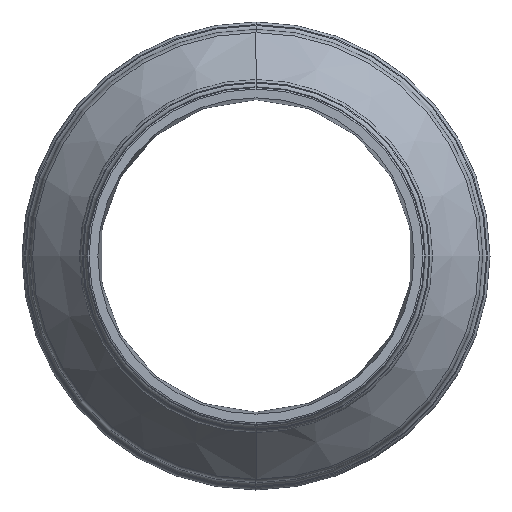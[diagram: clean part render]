
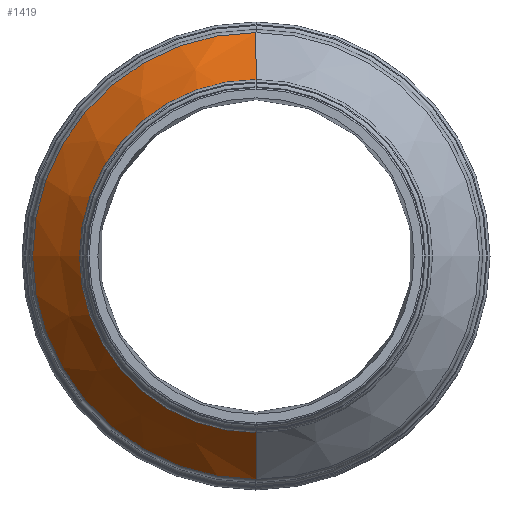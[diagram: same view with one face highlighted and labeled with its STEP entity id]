
A CAD part, left-side view. The second image highlights one B-rep face of the part: STEP entity #1419.
In plain terms, the highlighted conical face has half-angle 40.914 degrees and reference radius 89.72 mm.
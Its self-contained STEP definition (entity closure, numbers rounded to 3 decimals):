
#353=CARTESIAN_POINT('',(99.381,0.,0.));
#354=DIRECTION('',(-1.,0.,0.));
#355=DIRECTION('',(0.,0.,1.));
#356=AXIS2_PLACEMENT_3D('',#353,#354,#355);
#361=CARTESIAN_POINT('',(70.753,0.,0.));
#362=DIRECTION('',(1.,0.,0.));
#363=DIRECTION('',(0.,0.,-1.));
#364=AXIS2_PLACEMENT_3D('',#361,#362,#363);
#393=DIRECTION('',(0.756,0.,-0.655));
#394=VECTOR('',#393,37.883);
#395=CARTESIAN_POINT('',(70.753,0.,-77.315));
#396=LINE('',#395,#394);
#408=DIRECTION('',(0.756,0.,0.655));
#409=VECTOR('',#408,37.883);
#410=CARTESIAN_POINT('',(70.753,0.,77.315));
#411=LINE('',#410,#409);
#993=CARTESIAN_POINT('',(70.753,0.,-77.315));
#994=CARTESIAN_POINT('',(70.753,0.,77.315));
#995=VERTEX_POINT('',#993);
#996=VERTEX_POINT('',#994);
#1069=CARTESIAN_POINT('',(99.381,0.,
102.126));
#1070=CARTESIAN_POINT('',(99.381,0.,-102.126));
#1071=VERTEX_POINT('',#1069);
#1072=VERTEX_POINT('',#1070);
#1405=CARTESIAN_POINT('',(85.067,0.,0.));
#1406=DIRECTION('',(1.,0.,0.));
#1407=DIRECTION('',(0.,0.,-1.));
#1408=AXIS2_PLACEMENT_3D('',#1405,#1406,#1407);
#1409=CONICAL_SURFACE('',#1408,89.72,40.914);
#1411=ORIENTED_EDGE('',*,*,#1410,.F.);
#1413=ORIENTED_EDGE('',*,*,#1412,.F.);
#1414=ORIENTED_EDGE('',*,*,#1277,.F.);
#1416=ORIENTED_EDGE('',*,*,#1415,.T.);
#1417=EDGE_LOOP('',(#1411,#1413,#1414,#1416));
#1418=FACE_OUTER_BOUND('',#1417,.F.);
#357=CIRCLE('',#356,102.126);
#365=CIRCLE('',#364,77.315);
#1277=EDGE_CURVE('',#995,#996,#365,.T.);
#1410=EDGE_CURVE('',#1071,#1072,#357,.T.);
#1412=EDGE_CURVE('',#996,#1071,#411,.T.);
#1415=EDGE_CURVE('',#995,#1072,#396,.T.);
#1419=ADVANCED_FACE('',(#1418),#1409,.T.);
